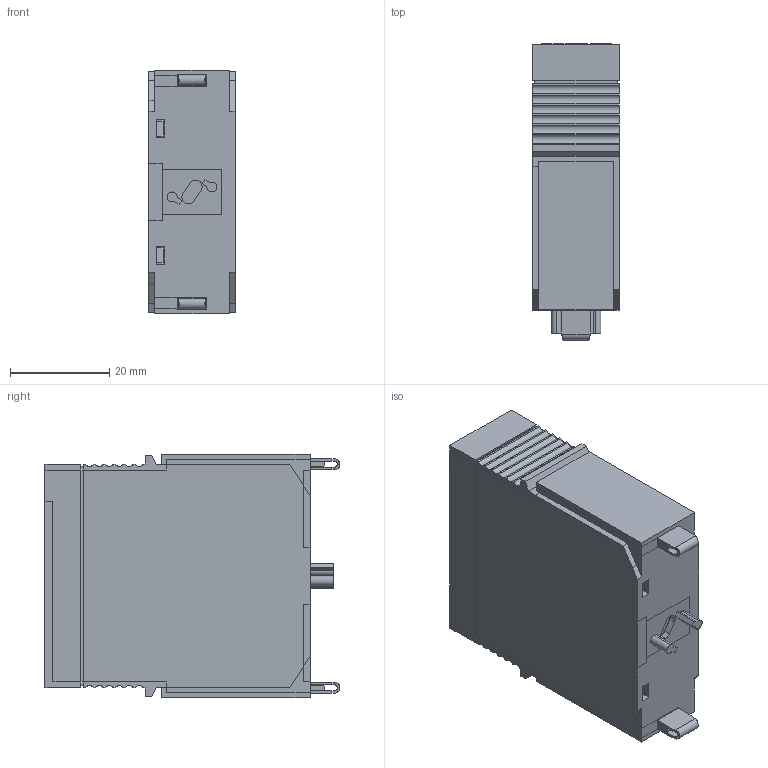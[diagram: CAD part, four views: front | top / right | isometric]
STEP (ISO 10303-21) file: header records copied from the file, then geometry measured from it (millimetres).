
FILE_DESCRIPTION (( 'STEP AP214' ), '1' );
FILE_NAME ('OptiIDn OM ñìåííûé ïîëþñ.STEP', '2022-12-05T08:18:03', ( '' ), ( '' ), 'SwSTEP 2.0', 'SolidWorks 2018', '' );
FILE_SCHEMA (( 'AUTOMOTIVE_DESIGN' ));
Length unit declared in the file: millimetre
Products named in the file (7): 署赅 01 矬耱铋; ﾂ鏆鮏 01; OptiIDn OM ñìåííûé ïîëþñ; 扻豵鵨 01 瀀嚦鍣; Êîäèðîâî÷íàÿ âñòàâêà; Ñüåìíûé ìîäóëü 01 ïóñòîé; Ìåòêà 21-086
Assembly tree (7 placements, depth 3):
  OptiIDn OM ñìåííûé ïîëþñ
    Ñüåìíûé ìîäóëü 01 ïóñòîé
      扻豵鵨 01 瀀嚦鍣
      署赅 01 矬耱铋
      Êîäèðîâî÷íàÿ âñòàâêà
      ﾂ鏆鮏 01  x2
      Ìåòêà 21-086
Bounding box: 17.4 x 59.48 x 49 mm (x, y, z)
Volume: 10315.4 mm3; surface area: 20074.5 mm2
Topology: 6 solids, 6 shells, 603 faces, 1693 edges, 1100 vertices
Faces by surface type: plane 511, cylinder 86, bspline 6
Entity records: 18412 total; most frequent: CARTESIAN_POINT 3333, ORIENTED_EDGE 3212, DIRECTION 2899, EDGE_CURVE 1606, LINE 1443, VECTOR 1443, VERTEX_POINT 1050, AXIS2_PLACEMENT_3D 728
